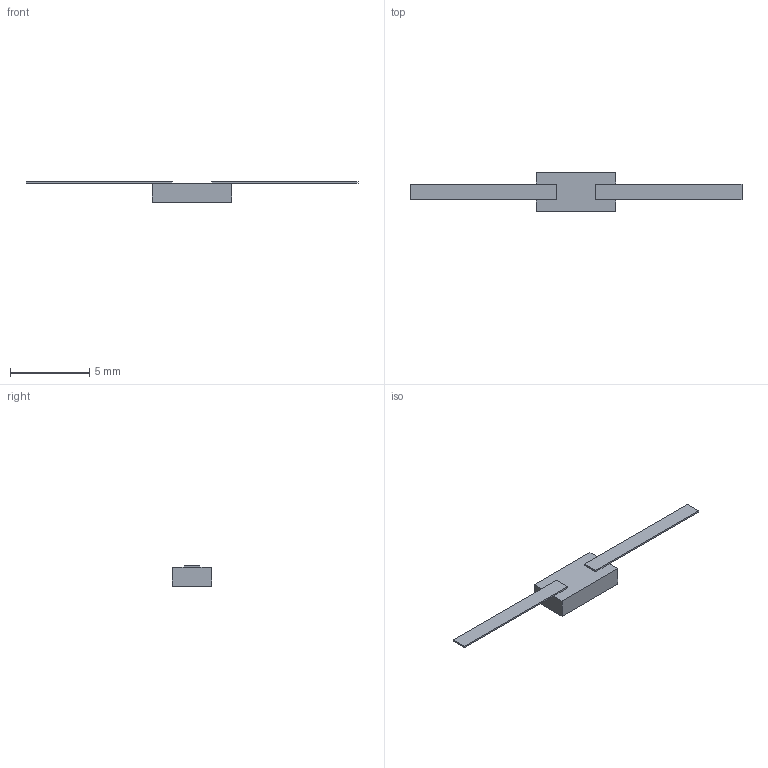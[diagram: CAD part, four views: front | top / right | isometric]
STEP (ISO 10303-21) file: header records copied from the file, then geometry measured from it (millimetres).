
FILE_DESCRIPTION(('STEP AP203'), '1');
FILE_NAME('Ð1-17-25-1', '', ('UNSPECIFIED'), ('UNSPECIFIED'), 'ASCON STEP Converter 1.6', 'ASCON Math Kernel', '');
FILE_SCHEMA(('CONFIG_CONTROL_DESIGN'));
Length unit declared in the file: millimetre
Bounding box: 21 x 2.5 x 1.3 mm (x, y, z)
Volume: 16.8 mm3; surface area: 81.6 mm2
Topology: 1 solids, 2 shells, 37 faces, 95 edges, 62 vertices
Faces by surface type: plane 33, cylinder 4
Entity records: 1447 total; most frequent: CARTESIAN_POINT 195, ORIENTED_EDGE 190, DIRECTION 179, EDGE_CURVE 95, LINE 87, VECTOR 87, VERTEX_POINT 62, AXIS2_PLACEMENT_3D 46
